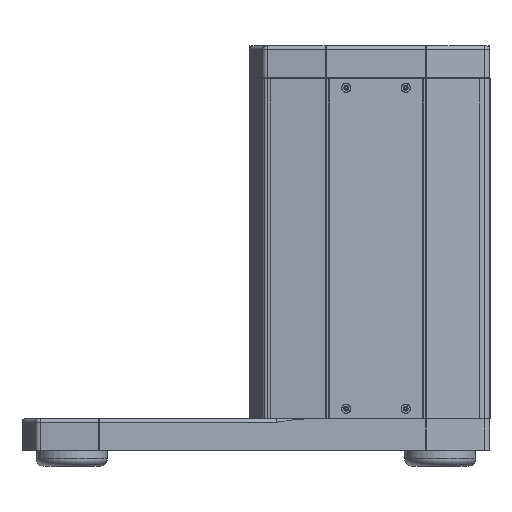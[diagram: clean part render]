
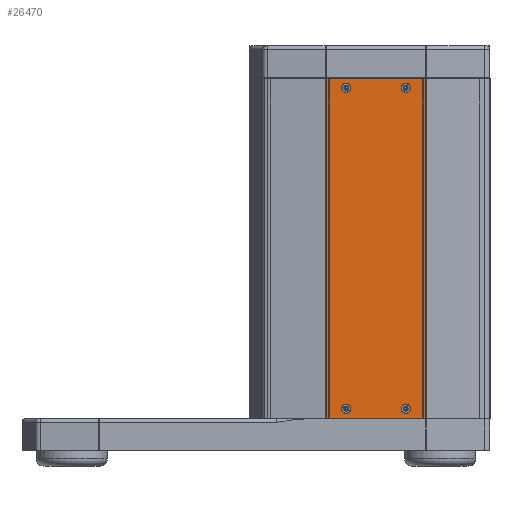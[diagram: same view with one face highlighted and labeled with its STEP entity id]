
A CAD part, front view. The second image highlights one B-rep face of the part: STEP entity #26470.
In plain terms, the highlighted planar face has unit normal (0, -1, 0).
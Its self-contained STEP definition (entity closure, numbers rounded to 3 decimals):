
#1865=LINE('',#39014,#4058);
#1878=LINE('',#39054,#4071);
#1879=LINE('',#39058,#4072);
#1880=LINE('',#39059,#4073);
#4058=VECTOR('',#31420,1.);
#4071=VECTOR('',#31459,1.);
#4072=VECTOR('',#31464,1.);
#4073=VECTOR('',#31465,1.);
#6111=FACE_BOUND('',#8234,.T.);
#6112=FACE_BOUND('',#8235,.T.);
#6113=FACE_BOUND('',#8236,.T.);
#6114=FACE_BOUND('',#8237,.T.);
#6424=FACE_OUTER_BOUND('',#8233,.T.);
#8233=EDGE_LOOP('',(#18186,#18187,#18188,#18189));
#8234=EDGE_LOOP('',(#18190));
#8235=EDGE_LOOP('',(#18191));
#8236=EDGE_LOOP('',(#18192));
#8237=EDGE_LOOP('',(#18193));
#10213=CIRCLE('',#28359,0.163);
#10214=CIRCLE('',#28360,0.163);
#10215=CIRCLE('',#28361,0.163);
#10216=CIRCLE('',#28362,0.163);
#11455=VERTEX_POINT('',#39011);
#11456=VERTEX_POINT('',#39013);
#11470=VERTEX_POINT('',#39053);
#11471=VERTEX_POINT('',#39057);
#11472=VERTEX_POINT('',#39060);
#11473=VERTEX_POINT('',#39062);
#11474=VERTEX_POINT('',#39064);
#11475=VERTEX_POINT('',#39066);
#13956=EDGE_CURVE('',#11456,#11455,#1865,.T.);
#13976=EDGE_CURVE('',#11470,#11456,#1878,.T.);
#13978=EDGE_CURVE('',#11471,#11455,#1879,.T.);
#13979=EDGE_CURVE('',#11470,#11471,#1880,.T.);
#13980=EDGE_CURVE('',#11472,#11472,#10213,.T.);
#13981=EDGE_CURVE('',#11473,#11473,#10214,.T.);
#13982=EDGE_CURVE('',#11474,#11474,#10215,.T.);
#13983=EDGE_CURVE('',#11475,#11475,#10216,.T.);
#18186=ORIENTED_EDGE('',*,*,#13978,.F.);
#18187=ORIENTED_EDGE('',*,*,#13979,.F.);
#18188=ORIENTED_EDGE('',*,*,#13976,.T.);
#18189=ORIENTED_EDGE('',*,*,#13956,.T.);
#18190=ORIENTED_EDGE('',*,*,#13980,.T.);
#18191=ORIENTED_EDGE('',*,*,#13981,.T.);
#18192=ORIENTED_EDGE('',*,*,#13982,.T.);
#18193=ORIENTED_EDGE('',*,*,#13983,.T.);
#25673=PLANE('',#28358);
#26470=ADVANCED_FACE('',(#6424,#6111,#6112,#6113,#6114),#25673,.T.);
#28358=AXIS2_PLACEMENT_3D('',#39056,#31462,#31463);
#28359=AXIS2_PLACEMENT_3D('',#39061,#31466,#31467);
#28360=AXIS2_PLACEMENT_3D('',#39063,#31468,#31469);
#28361=AXIS2_PLACEMENT_3D('',#39065,#31470,#31471);
#28362=AXIS2_PLACEMENT_3D('',#39067,#31472,#31473);
#31420=DIRECTION('',(-1.,0.,0.));
#31459=DIRECTION('',(0.,0.,1.));
#31462=DIRECTION('center_axis',(0.,-1.,0.));
#31463=DIRECTION('ref_axis',(0.,0.,
-1.));
#31464=DIRECTION('',(0.,0.,1.));
#31465=DIRECTION('',(-1.,0.,0.));
#31466=DIRECTION('center_axis',(0.,1.,0.));
#31467=DIRECTION('ref_axis',(1.,0.,0.));
#31468=DIRECTION('center_axis',(0.,1.,0.));
#31469=DIRECTION('ref_axis',(1.,0.,0.));
#31470=DIRECTION('center_axis',(0.,1.,0.));
#31471=DIRECTION('ref_axis',(1.,0.,0.));
#31472=DIRECTION('center_axis',(0.,1.,0.));
#31473=DIRECTION('ref_axis',(1.,0.,0.));
#39011=CARTESIAN_POINT('',(81.737,-68.616,-25.634));
#39013=CARTESIAN_POINT('',(85.235,-68.616,-25.634));
#39014=CARTESIAN_POINT('',(85.235,-68.616,-25.634));
#39053=CARTESIAN_POINT('',(85.235,-68.616,-37.608));
#39054=CARTESIAN_POINT('',(85.235,-68.616,-37.538));
#39056=CARTESIAN_POINT('Origin',(85.235,-68.616,-37.538));
#39057=CARTESIAN_POINT('',(81.737,-68.616,-37.608));
#39058=CARTESIAN_POINT('',(81.737,-68.616,-37.538));
#39059=CARTESIAN_POINT('',(85.235,-68.616,-37.608));
#39060=CARTESIAN_POINT('',(84.374,-68.616,-25.971));
#39061=CARTESIAN_POINT('Origin',(84.536,-68.616,-25.971));
#39062=CARTESIAN_POINT('',(82.274,-68.616,-25.971));
#39063=CARTESIAN_POINT('Origin',(82.436,-68.616,-25.971));
#39064=CARTESIAN_POINT('',(84.374,-68.616,-37.271));
#39065=CARTESIAN_POINT('Origin',(84.536,-68.616,-37.271));
#39066=CARTESIAN_POINT('',(82.274,-68.616,-37.271));
#39067=CARTESIAN_POINT('Origin',(82.436,-68.616,-37.271));
